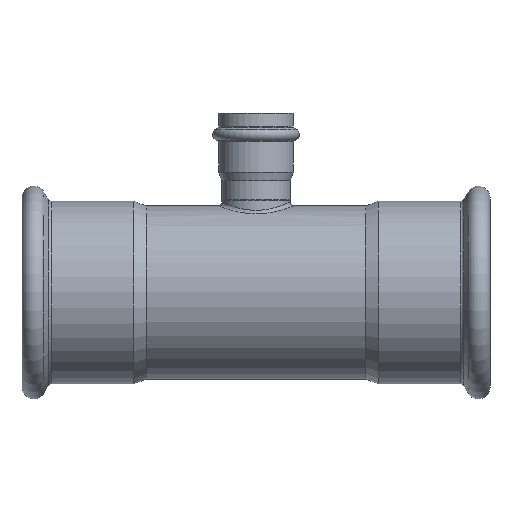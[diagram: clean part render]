
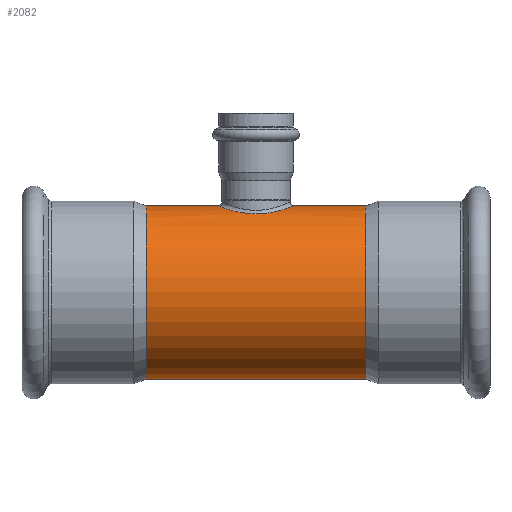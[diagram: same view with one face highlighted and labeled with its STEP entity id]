
A CAD part, top view. The second image highlights one B-rep face of the part: STEP entity #2082.
In plain terms, the highlighted cylindrical face has radius 44.45 mm (diameter 88.9 mm), a full revolution.
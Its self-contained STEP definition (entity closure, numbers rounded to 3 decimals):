
#1875=CARTESIAN_POINT('',(0.,40.343,18.66));
#1876=VERTEX_POINT('',#1875);
#1958=CARTESIAN_POINT('',(0.,40.343,18.66));
#1959=CARTESIAN_POINT('',(0.,40.343,18.66));
#1960=CARTESIAN_POINT('',(0.,40.343,18.66));
#1961=CARTESIAN_POINT('',(0.,40.343,18.66));
#1962=CARTESIAN_POINT('',(0.551,40.343,18.66));
#1963=CARTESIAN_POINT('',(1.652,40.364,18.616));
#1964=CARTESIAN_POINT('',(3.115,40.446,18.437));
#1965=CARTESIAN_POINT('',(4.731,40.587,18.127));
#1966=CARTESIAN_POINT('',(6.488,40.803,17.639));
#1967=CARTESIAN_POINT('',(8.352,41.117,16.896));
#1968=CARTESIAN_POINT('',(9.636,41.381,16.235));
#1969=CARTESIAN_POINT('',(10.642,41.606,15.646));
#1970=CARTESIAN_POINT('',(11.385,41.786,15.162));
#1971=CARTESIAN_POINT('',(13.1,42.23,13.906));
#1972=CARTESIAN_POINT('',(14.671,42.706,12.406));
#1973=CARTESIAN_POINT('',(16.033,43.161,10.645));
#1974=CARTESIAN_POINT('',(16.554,43.341,9.872));
#1975=CARTESIAN_POINT('',(17.293,43.603,8.679));
#1976=CARTESIAN_POINT('',(18.203,43.94,6.889));
#1977=CARTESIAN_POINT('',(18.932,44.224,4.641));
#1978=CARTESIAN_POINT('',(19.297,44.369,2.805));
#1979=CARTESIAN_POINT('',(19.491,44.446,1.169));
#1980=CARTESIAN_POINT('',(19.528,44.461,-0.708));
#1981=CARTESIAN_POINT('',(19.342,44.386,-2.584));
#1982=CARTESIAN_POINT('',(19.021,44.259,-4.191));
#1983=CARTESIAN_POINT('',(18.637,44.109,-5.548));
#1984=CARTESIAN_POINT('',(17.985,43.859,-7.318));
#1985=CARTESIAN_POINT('',(17.182,43.562,-8.898));
#1986=CARTESIAN_POINT('',(16.42,43.295,-10.074));
#1987=CARTESIAN_POINT('',(15.884,43.111,-10.837));
#1988=CARTESIAN_POINT('',(14.951,42.799,-12.042));
#1989=CARTESIAN_POINT('',(13.467,42.34,-13.569));
#1990=CARTESIAN_POINT('',(11.979,41.935,-14.747));
#1991=CARTESIAN_POINT('',(10.417,41.548,-15.81));
#1992=CARTESIAN_POINT('',(8.528,41.136,-16.86));
#1993=CARTESIAN_POINT('',(6.358,40.785,-17.678));
#1994=CARTESIAN_POINT('',(4.478,40.563,-18.18));
#1995=CARTESIAN_POINT('',(2.559,40.396,-18.547));
#1996=CARTESIAN_POINT('',(-0.017,40.31,-18.731));
#1997=CARTESIAN_POINT('',(-2.957,40.411,-18.516));
#1998=CARTESIAN_POINT('',(-5.347,40.65,-17.988));
#1999=CARTESIAN_POINT('',(-7.188,40.919,-17.365));
#2000=CARTESIAN_POINT('',(-8.957,41.23,-16.62));
#2001=CARTESIAN_POINT('',(-11.057,41.688,-15.456));
#2002=CARTESIAN_POINT('',(-13.329,42.297,-13.713));
#2003=CARTESIAN_POINT('',(-15.284,42.903,-11.697));
#2004=CARTESIAN_POINT('',(-16.749,43.406,-9.651));
#2005=CARTESIAN_POINT('',(-17.785,43.785,-7.726));
#2006=CARTESIAN_POINT('',(-18.5,44.056,-5.998));
#2007=CARTESIAN_POINT('',(-19.125,44.3,-3.888));
#2008=CARTESIAN_POINT('',(-19.444,44.428,-1.879));
#2009=CARTESIAN_POINT('',(-19.518,44.457,0.002));
#2010=CARTESIAN_POINT('',(-19.445,44.428,1.877));
#2011=CARTESIAN_POINT('',(-19.074,44.279,4.206));
#2012=CARTESIAN_POINT('',(-18.204,43.941,6.881));
#2013=CARTESIAN_POINT('',(-17.136,43.545,8.991));
#2014=CARTESIAN_POINT('',(-16.1,43.183,10.559));
#2015=CARTESIAN_POINT('',(-15.313,42.92,11.574));
#2016=CARTESIAN_POINT('',(-14.538,42.673,12.451));
#2017=CARTESIAN_POINT('',(-13.544,42.37,13.456));
#2018=CARTESIAN_POINT('',(-12.194,41.987,14.612));
#2019=CARTESIAN_POINT('',(-10.718,41.62,15.616));
#2020=CARTESIAN_POINT('',(-9.478,41.347,16.319));
#2021=CARTESIAN_POINT('',(-7.545,40.96,17.282));
#2022=CARTESIAN_POINT('',(-5.101,40.597,18.107));
#2023=CARTESIAN_POINT('',(-2.209,40.381,18.58));
#2024=CARTESIAN_POINT('',(-0.734,40.343,18.661));
#2025=CARTESIAN_POINT('',(0.,40.343,18.66));
#2026=B_SPLINE_CURVE_WITH_KNOTS('',3,(#1958,#1959,#1960,#1961,#1962,#1963,#1964,#1965,#1966,#1967,#1968,#1969,#1970,#1971,#1972,#1973,#1974,#1975,#1976,#1977,#1978,#1979,#1980,#1981,#1982,#1983,#1984,#1985,#1986,#1987,#1988,#1989,#1990,#1991,#1992,#1993,#1994,#1995,#1996,#1997,#1998,#1999,#2000,#2001,#2002,#2003,#2004,#2005,#2006,#2007,#2008,#2009,#2010,#2011,#2012,#2013,#2014,#2015,#2016,#2017,#2018,#2019,#2020,#2021,#2022,#2023,#2024,#2025),.UNSPECIFIED.,.T.,.U.,(4,3,1,1,1,1,1,1,1,1,1,1,1,1,1,1,1,1,1,1,1,1,1,1,1,1,1,1,1,1,1,1,1,1,1,1,1,1,1,1,1,1,1,1,1,1,1,1,1,1,1,1,1,1,1,1,1,1,1,1,1,1,1,4),(-10.674,-10.674,-10.531,-10.388,-10.293,-10.102,-9.911,-9.768,-9.721,-9.602,-9.53,-9.149,-9.022,-8.927,-8.895,-8.641,-8.387,-8.259,-8.132,-7.942,-7.751,-7.624,-7.497,-7.37,-7.116,-7.021,-6.989,-6.862,-6.608,-6.417,-6.353,-6.099,-5.845,-5.75,-5.591,-5.337,-5.083,-4.829,-4.702,-4.574,-4.32,-4.066,-3.812,-3.558,-3.388,-3.219,-3.05,-2.796,-2.668,-2.541,-2.287,-2.033,-1.779,-1.652,-1.525,-1.43,-1.334,-1.144,-0.953,-0.858,-0.762,-0.381,-0.191,0.),.UNSPECIFIED.);
#2027=EDGE_CURVE('',#1876,#1876,#2026,.T.);
#2052=CARTESIAN_POINT('',(0.,0.,0.0));
#2053=DIRECTION('',(1.0,0.,0.0));
#2054=DIRECTION('',(0.0,1.0,0.0));
#2055=AXIS2_PLACEMENT_3D('',#2052,#2053,#2054);
#2056=CYLINDRICAL_SURFACE('',#2055,44.45);
#2057=CARTESIAN_POINT('',(-56.328,44.45,0.0));
#2058=VERTEX_POINT('',#2057);
#2059=CARTESIAN_POINT('',(-56.328,0.,0.0));
#2060=DIRECTION('',(1.0,0.0,0.0));
#2061=DIRECTION('',(0.0,1.0,0.0));
#2062=AXIS2_PLACEMENT_3D('',#2059,#2060,#2061);
#2063=CIRCLE('',#2062,44.45);
#2064=EDGE_CURVE('',#2058,#2058,#2063,.T.);
#2065=ORIENTED_EDGE('',*,*,#2064,.T.);
#2066=EDGE_LOOP('',(#2065));
#2067=FACE_OUTER_BOUND('',#2066,.T.);
#2068=CARTESIAN_POINT('',(56.328,44.45,0.0));
#2069=VERTEX_POINT('',#2068);
#2070=CARTESIAN_POINT('',(56.328,0.,0.0));
#2071=DIRECTION('',(1.0,0.0,0.0));
#2072=DIRECTION('',(0.0,1.0,0.0));
#2073=AXIS2_PLACEMENT_3D('',#2070,#2071,#2072);
#2074=CIRCLE('',#2073,44.45);
#2075=EDGE_CURVE('',#2069,#2069,#2074,.T.);
#2076=ORIENTED_EDGE('',*,*,#2075,.F.);
#2077=EDGE_LOOP('',(#2076));
#2078=FACE_BOUND('',#2077,.T.);
#2079=ORIENTED_EDGE('',*,*,#2027,.F.);
#2080=EDGE_LOOP('',(#2079));
#2081=FACE_BOUND('',#2080,.T.);
#2082=ADVANCED_FACE('',(#2067,#2078,#2081),#2056,.T.);
